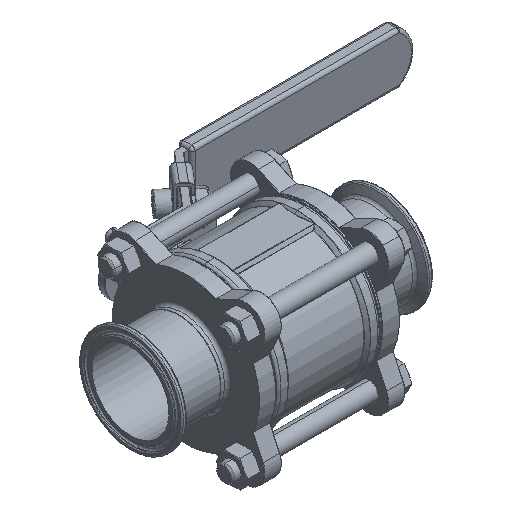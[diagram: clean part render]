
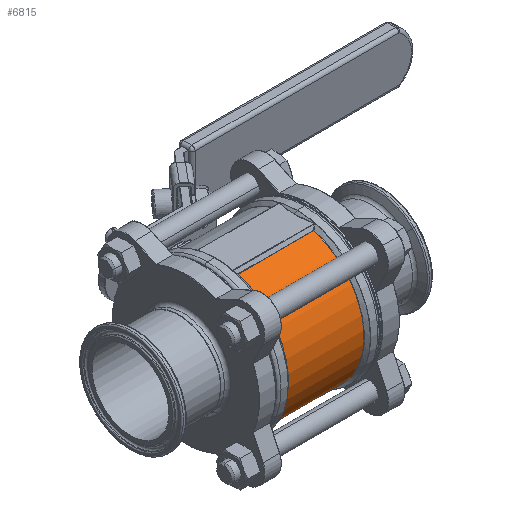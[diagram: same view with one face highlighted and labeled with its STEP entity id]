
A CAD part, isometric view. The second image highlights one B-rep face of the part: STEP entity #6815.
In plain terms, the highlighted cylindrical face has radius 43.5 mm (diameter 87 mm), a partial arc.
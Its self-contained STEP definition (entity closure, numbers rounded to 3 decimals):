
#476 = CARTESIAN_POINT ( 'NONE',  ( 23.417, -12.297, -41.726 ) ) ;
#712 = CYLINDRICAL_SURFACE ( 'NONE', #21657, 43.5 ) ;
#2040 = CARTESIAN_POINT ( 'NONE',  ( 24.418, -12.297, -41.726 ) ) ;
#2090 = EDGE_CURVE ( 'NONE', #4704, #21440, #24935, .T. ) ;
#2355 = CIRCLE ( 'NONE', #25831, 43.5 ) ;
#3249 = CARTESIAN_POINT ( 'NONE',  ( -23.417, 0., 0. ) ) ;
#3424 = DIRECTION ( 'NONE',  ( 1., 0., 0. ) ) ;
#4704 = VERTEX_POINT ( 'NONE', #18869 ) ;
#6815 = ADVANCED_FACE ( 'NONE', ( #18748 ), #712, .T. ) ;
#7033 = ORIENTED_EDGE ( 'NONE', *, *, #18258, .T. ) ;
#7792 = VERTEX_POINT ( 'NONE', #15605 ) ;
#8320 = CARTESIAN_POINT ( 'NONE',  ( 23.417, 0., 0. ) ) ;
#8513 = AXIS2_PLACEMENT_3D ( 'NONE', #3249, #3424, #17554 ) ;
#9849 = ORIENTED_EDGE ( 'NONE', *, *, #21830, .T. ) ;
#10523 = DIRECTION ( 'NONE',  ( -1., 0., 0. ) ) ;
#11103 = VECTOR ( 'NONE', #17721, 1000. ) ;
#12721 = EDGE_CURVE ( 'NONE', #24260, #7792, #13921, .T. ) ;
#13921 = LINE ( 'NONE', #17637, #11103 ) ;
#15605 = CARTESIAN_POINT ( 'NONE',  ( -23.417, -12.297, 41.726 ) ) ;
#16075 = CIRCLE ( 'NONE', #8513, 43.5 ) ;
#16162 = DIRECTION ( 'NONE',  ( 1., 0., 0. ) ) ;
#16788 = ORIENTED_EDGE ( 'NONE', *, *, #2090, .T. ) ;
#17554 = DIRECTION ( 'NONE',  ( 0., 0., -1. ) ) ;
#17637 = CARTESIAN_POINT ( 'NONE',  ( 24.418, -12.297, 41.726 ) ) ;
#17721 = DIRECTION ( 'NONE',  ( -1., 0., 0. ) ) ;
#18258 = EDGE_CURVE ( 'NONE', #7792, #4704, #16075, .T. ) ;
#18382 = DIRECTION ( 'NONE',  ( 0., 0., -1. ) ) ;
#18748 = FACE_OUTER_BOUND ( 'NONE', #24048, .T. ) ;
#18869 = CARTESIAN_POINT ( 'NONE',  ( -23.417, -12.297, -41.726 ) ) ;
#19559 = VECTOR ( 'NONE', #16162, 1000. ) ;
#21034 = DIRECTION ( 'NONE',  ( 0., 0., -1. ) ) ;
#21440 = VERTEX_POINT ( 'NONE', #476 ) ;
#21657 = AXIS2_PLACEMENT_3D ( 'NONE', #23064, #24997, #21034 ) ;
#21830 = EDGE_CURVE ( 'NONE', #21440, #24260, #2355, .T. ) ;
#23064 = CARTESIAN_POINT ( 'NONE',  ( 24.418, 0., 0. ) ) ;
#24048 = EDGE_LOOP ( 'NONE', ( #25601, #7033, #16788, #9849 ) ) ;
#24260 = VERTEX_POINT ( 'NONE', #24275 ) ;
#24275 = CARTESIAN_POINT ( 'NONE',  ( 23.417, -12.297, 41.726 ) ) ;
#24935 = LINE ( 'NONE', #2040, #19559 ) ;
#24997 = DIRECTION ( 'NONE',  ( 1., 0., 0. ) ) ;
#25601 = ORIENTED_EDGE ( 'NONE', *, *, #12721, .T. ) ;
#25831 = AXIS2_PLACEMENT_3D ( 'NONE', #8320, #10523, #18382 ) ;
